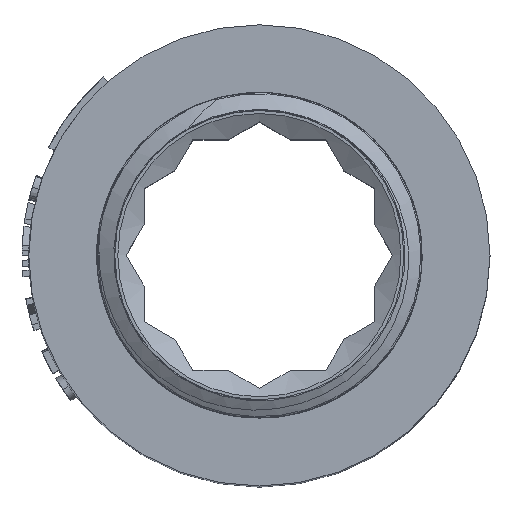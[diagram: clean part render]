
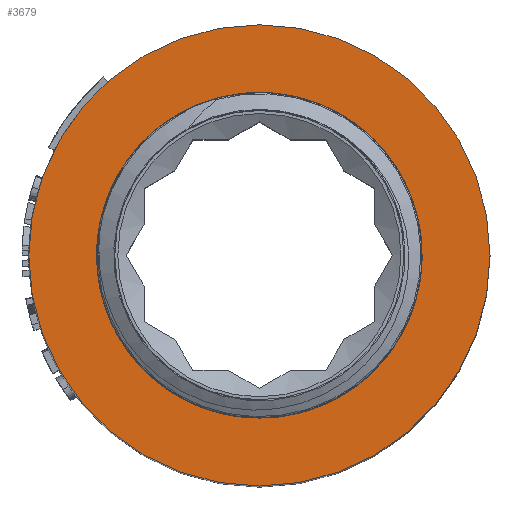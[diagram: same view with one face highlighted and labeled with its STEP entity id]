
A CAD part, top view. The second image highlights one B-rep face of the part: STEP entity #3679.
In plain terms, the highlighted planar face has unit normal (0, 0, 1).
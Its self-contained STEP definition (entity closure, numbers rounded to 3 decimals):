
#81=FACE_BOUND('',#847,.T.);
#462=PLANE('',#3915);
#628=FACE_OUTER_BOUND('',#846,.T.);
#846=EDGE_LOOP('',(#3181,#3182));
#847=EDGE_LOOP('',(#3183,#3184));
#1321=CIRCLE('',#3749,10.72);
#1324=CIRCLE('',#3752,10.72);
#1345=CIRCLE('',#3792,17.1);
#1346=CIRCLE('',#3793,17.1);
#1419=VERTEX_POINT('',#4640);
#1420=VERTEX_POINT('',#4641);
#1467=VERTEX_POINT('',#4888);
#1468=VERTEX_POINT('',#4889);
#1797=EDGE_CURVE('',#1419,#1420,#1321,.T.);
#1801=EDGE_CURVE('',#1420,#1419,#1324,.T.);
#1868=EDGE_CURVE('',#1467,#1468,#1345,.T.);
#1869=EDGE_CURVE('',#1468,#1467,#1346,.T.);
#3181=ORIENTED_EDGE('',*,*,#1868,.T.);
#3182=ORIENTED_EDGE('',*,*,#1869,.T.);
#3183=ORIENTED_EDGE('',*,*,#1797,.F.);
#3184=ORIENTED_EDGE('',*,*,#1801,.F.);
#3679=ADVANCED_FACE('',(#628,#81),#462,.T.);
#3749=AXIS2_PLACEMENT_3D('',#4642,#3978,#3979);
#3752=AXIS2_PLACEMENT_3D('',#4648,#3985,#3986);
#3792=AXIS2_PLACEMENT_3D('',#4890,#4101,#4102);
#3793=AXIS2_PLACEMENT_3D('',#4891,#4103,#4104);
#3915=AXIS2_PLACEMENT_3D('',#7519,#4497,#4498);
#3978=DIRECTION('center_axis',(0.,0.,1.));
#3979=DIRECTION('ref_axis',(1.,0.,0.));
#3985=DIRECTION('center_axis',(0.,0.,1.));
#3986=DIRECTION('ref_axis',(1.,0.,0.));
#4101=DIRECTION('center_axis',(0.,0.,1.));
#4102=DIRECTION('ref_axis',(1.,0.,0.));
#4103=DIRECTION('center_axis',(0.,0.,1.));
#4104=DIRECTION('ref_axis',(1.,0.,0.));
#4497=DIRECTION('center_axis',(0.,0.,1.));
#4498=DIRECTION('ref_axis',(1.,0.,0.));
#4640=CARTESIAN_POINT('',(0.,10.72,-12.));
#4641=CARTESIAN_POINT('',(0.,-10.72,-12.));
#4642=CARTESIAN_POINT('Origin',(0.,0.,-12.));
#4648=CARTESIAN_POINT('Origin',(0.,0.,-12.));
#4888=CARTESIAN_POINT('',(0.,-17.1,-12.));
#4889=CARTESIAN_POINT('',(0.,17.1,-12.));
#4890=CARTESIAN_POINT('Origin',(0.,0.,-12.));
#4891=CARTESIAN_POINT('Origin',(0.,0.,-12.));
#7519=CARTESIAN_POINT('Origin',(0.,-12.065,-12.));
